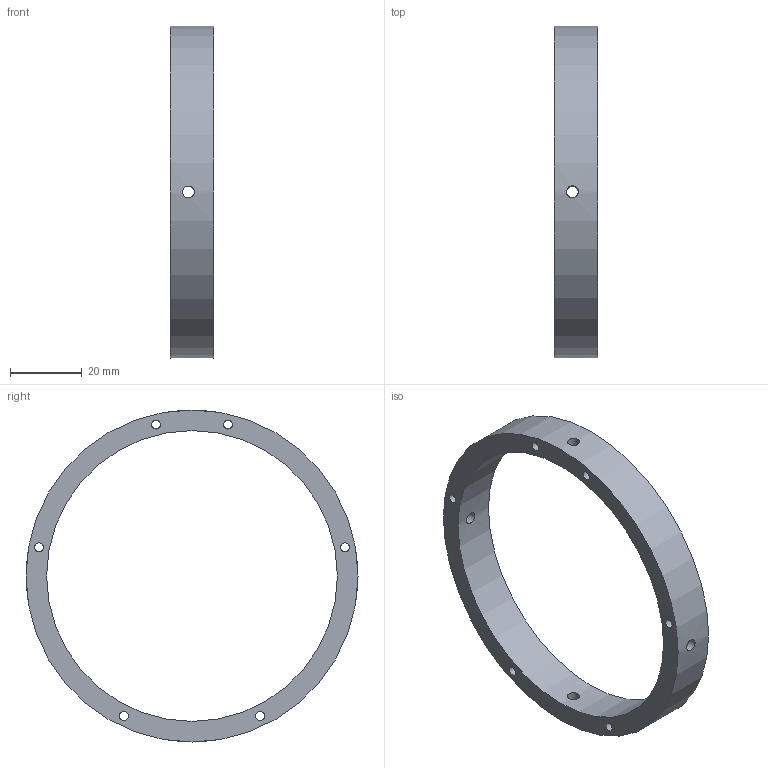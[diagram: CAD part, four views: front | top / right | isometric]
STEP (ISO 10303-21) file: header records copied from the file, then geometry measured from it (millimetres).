
FILE_DESCRIPTION(('Open CASCADE Model'),'2;1');
FILE_NAME('Open CASCADE Shape Model','2026-11-20T22:44:44',('Author'),( 'Open CASCADE'),'Open CASCADE STEP processor 7.8','Open CASCADE 7.8' ,'Unknown');
FILE_SCHEMA(('AUTOMOTIVE_DESIGN { 1 0 10303 214 1 1 1 1 }'));
Length unit declared in the file: millimetre
Products named in the file (1): Open CASCADE STEP translator 7.8 5
Bounding box: 12 x 92.5 x 92.5 mm (x, y, z)
Volume: 18254.1 mm3; surface area: 10351.5 mm2
Topology: 1 solids, 1 shells, 18 faces, 50 edges, 32 vertices
Faces by surface type: cylinder 16, plane 2
Full cylindrical faces by diameter (mm): 2.5 x6, 3.3 x8, 81 x1, 92.5 x1
Entity records: 2396 total; most frequent: CARTESIAN_POINT 1383, DIRECTION 172, ORIENTED_EDGE 100, PCURVE 100, DEFINITIONAL_REPRESENTATION 100, LINE 78, VECTOR 78, EDGE_CURVE 50
